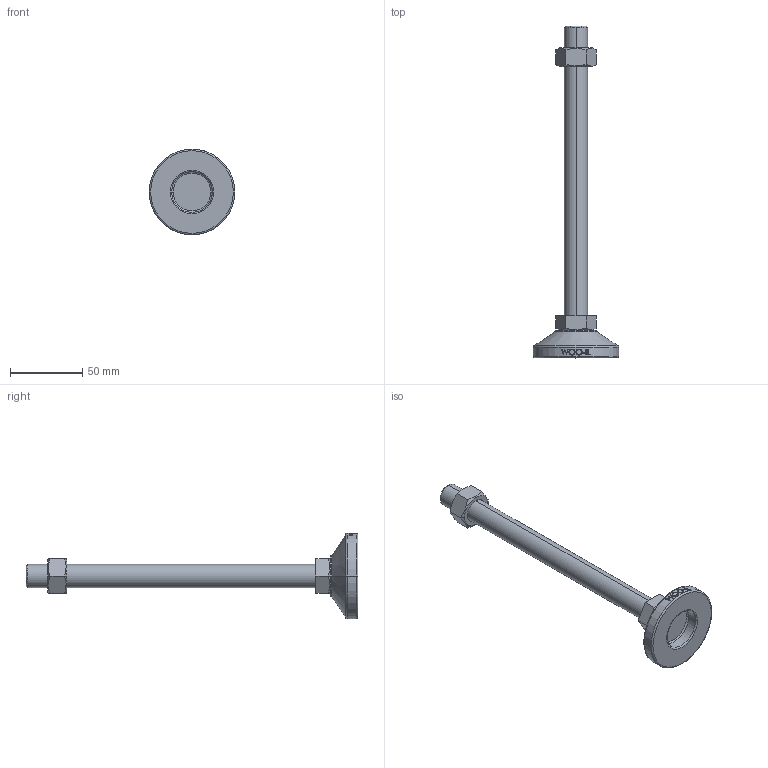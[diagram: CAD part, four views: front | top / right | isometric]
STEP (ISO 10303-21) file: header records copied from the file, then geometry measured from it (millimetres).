
FILE_DESCRIPTION (( 'STEP AP214' ), '1' );
FILE_NAME ('MF59-M16-200.step', '2021-02-03T08:18:14', ( '' ), ( '' ), 'SwSTEP 2.0', 'SolidWorks 2019', '' );
FILE_SCHEMA (( 'AUTOMOTIVE_DESIGN' ));
Length unit declared in the file: millimetre
Products named in the file (2): MF59-M16-200
Bounding box: 59 x 229 x 59 mm (x, y, z)
Volume: 81906.7 mm3; surface area: 22063 mm2
Topology: 3 solids, 3 shells, 106 faces, 243 edges, 154 vertices
Faces by surface type: plane 48, cylinder 18, bspline 16, cone 14, torus 10
Entity records: 4448 total; most frequent: CARTESIAN_POINT 2105, ORIENTED_EDGE 486, DIRECTION 439, EDGE_CURVE 243, AXIS2_PLACEMENT_3D 170, VERTEX_POINT 154, EDGE_LOOP 119, ADVANCED_FACE 106
